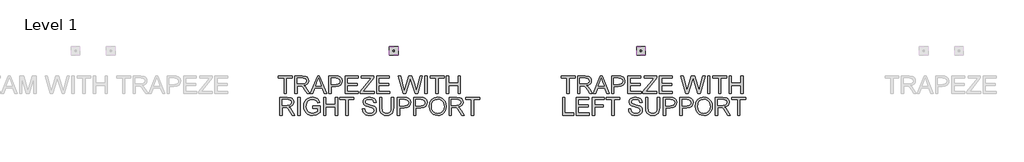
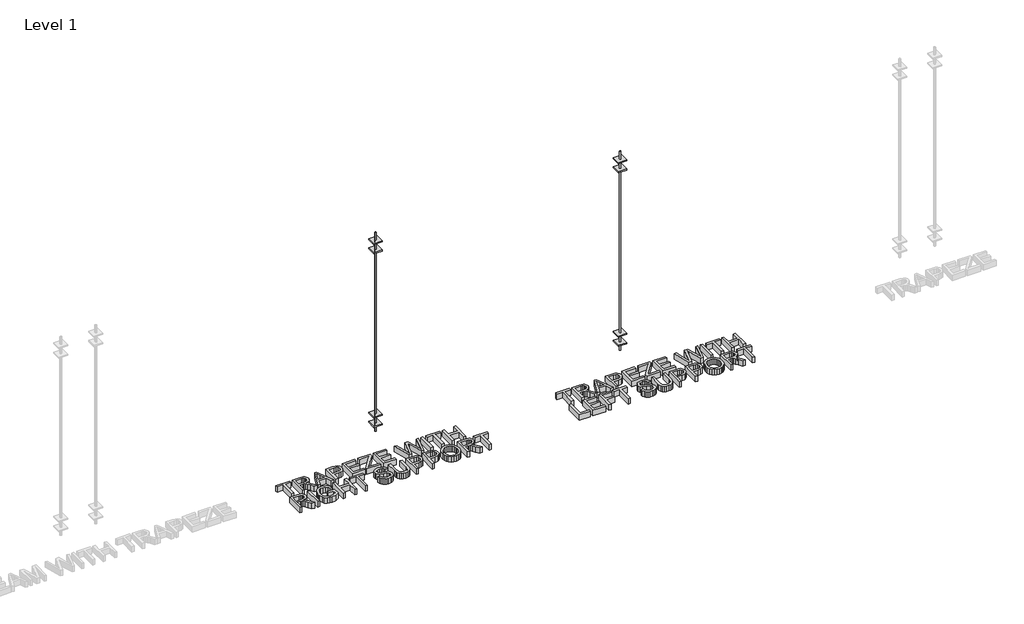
# One storey, part 2 of 3: 12 proxies.
"""IFC4 building model written with IfcOpenShell, lengths in millimetres."""

from ifc_helpers import new_model, si_unit, origin, origin_with_axes, place, context, project, spatial, polyline, outline, extrude, transform, mapped, element, save
from components import square_washer_square_washer_0353e511, threaded_rod_threaded_rod_3e89cda6

model = new_model("IFC4")

# Units and contexts
model_context = context("Model", 3, world=origin())
ifc_project = project(units=[si_unit("LENGTHUNIT", "METRE", prefix="MILLI")], contexts=[model_context])

# Site, building, storey
site = spatial("IfcSite", under=ifc_project)
building = spatial("IfcBuilding", under=site)
storey = spatial("IfcBuildingStorey", under=building, Name="Level 1", Elevation=0.0)

# Proxies
placement = place(None, origin())
element("IfcBuildingElementProxy", 1, Name="6\" Arial", ObjectType="6\" Arial", at=placement, inside=storey, context=model_context, shape_type="SweptSolid", body=[
    extrude(outline(polyline([(4086.2019632, -3418.4860814), (4086.2019632, -3284.5275918), (4035.9675297, -3284.5275918), (4035.9675297, -3265.3906647), (4155.5733239, -3265.3906647), (4155.5733239, -3284.5275918), (4105.3388903, -3284.5275918), (4105.3388903, -3418.4860814), (4086.2019632, -3418.4860814)])), origin_with_axes(), (0.0, 0.0, 1.0), 50.8),
    extrude(outline(polyline([(4177.1023669, -3418.4860814), (4177.1023669, -3265.3906647), (4243.0724378, -3265.3906647), (4273.7027342, -3269.5208023), (4283.1310347, -3275.2394543), (4290.4475454, -3284.1351353), (4295.1430072, -3295.1659665), (4296.7081612, -3307.2900695), (4294.1151449, -3322.3716126), (4286.3360962, -3334.8741558), (4273.1374099, -3344.0408186), (4254.285481, -3349.1147207), (4265.1621329, -3357.3002422), (4280.6735094, -3376.9978215), (4306.2018711, -3418.4860814), (4283.9626687, -3418.4860814), (4264.0408286, -3386.7531691), (4249.6507565, -3365.7474015), (4239.5403292, -3355.8238582), (4230.4390758, -3352.1796192), (4219.338163, -3351.5068366), (4196.239294, -3351.5068366), (4196.239294, -3418.4860814), (4177.1023669, -3418.4860814)]), holes=[polyline([(4196.239294, -3332.3699095), (4239.0731191, -3332.3699095), (4260.9198649, -3329.6600907), (4273.3289661, -3320.9886706), (4277.5712341, -3308.0002289), (4275.5482142, -3298.6653704), (4269.4791546, -3291.1432873), (4259.0370081, -3286.1815157), (4243.8947276, -3284.5275918), (4196.239294, -3284.5275918), (4196.239294, -3332.3699095)])]), origin_with_axes(), (0.0, 0.0, 1.0), 50.8),
    extrude(outline(polyline([(4312.3690449, -3418.4860814), (4373.4801304, -3265.3906647), (4389.7764198, -3265.3906647), (4450.8875053, -3418.4860814), (4430.6666508, -3418.4860814), (4413.1369265, -3370.6437637), (4350.0822469, -3370.6437637), (4332.5898994, -3418.4860814), (4312.3690449, -3418.4860814)]), holes=[polyline([(4357.1090873, -3351.5068366), (4406.1474629, -3351.5068366), (4392.3554198, -3313.8683882), (4381.6282751, -3284.5275918), (4372.0971884, -3310.5792289), (4357.1090873, -3351.5068366)])]), origin_with_axes(), (0.0, 0.0, 1.0), 50.8),
    extrude(outline(polyline([(4471.3326208, -3418.4860814), (4471.3326208, -3265.3906647), (4528.0706195, -3265.3906647), (4550.9452276, -3266.8483603), (4569.5401909, -3274.0060196), (4581.5942124, -3288.8072366), (4586.1541833, -3309.6821854), (4583.0752685, -3327.7258408), (4573.8385242, -3342.7606629), (4556.5657655, -3352.908467), (4529.3788078, -3356.2910684), (4490.4695479, -3356.2910684), (4490.4695479, -3418.4860814), (4471.3326208, -3418.4860814)]), holes=[polyline([(4490.4695479, -3337.1541413), (4530.5001122, -3337.1541413), (4547.4691842, -3335.3974312), (4558.6822274, -3330.1273009), (4564.933499, -3321.6707974), (4567.0172562, -3310.354968), (4562.1022056, -3294.5072003), (4549.1885175, -3285.8357802), (4530.0515904, -3284.5275918), (4490.4695479, -3284.5275918), (4490.4695479, -3337.1541413)])]), origin_with_axes(), (0.0, 0.0, 1.0), 50.8),
    extrude(outline(polyline([(4612.467458, -3418.4860814), (4612.467458, -3265.3906647), (4722.5047888, -3265.3906647), (4722.5047888, -3284.5275918), (4631.6043851, -3284.5275918), (4631.6043851, -3329.9777936), (4717.720557, -3329.9777936), (4717.720557, -3349.1147207), (4631.6043851, -3349.1147207), (4631.6043851, -3399.3491543), (4724.8969047, -3399.3491543), (4724.8969047, -3418.4860814), (4612.467458, -3418.4860814)])), origin_with_axes(), (0.0, 0.0, 1.0), 50.8),
    extrude(outline(polyline([(4741.6417159, -3418.4860814), (4741.6417159, -3398.6389949), (4819.9461343, -3302.7674754), (4834.822105, -3284.5275918), (4751.2101794, -3284.5275918), (4751.2101794, -3265.3906647), (4858.8553942, -3265.3906647), (4858.8553942, -3284.5275918), (4773.1503673, -3389.4442995), (4765.0769762, -3399.3491543), (4861.2475101, -3399.3491543), (4861.2475101, -3418.4860814), (4741.6417159, -3418.4860814)])), origin_with_axes(), (0.0, 0.0, 1.0), 50.8),
    extrude(outline(polyline([(4882.7765531, -3418.4860814), (4882.7765531, -3265.3906647), (4992.8138838, -3265.3906647), (4992.8138838, -3284.5275918), (4901.9134802, -3284.5275918), (4901.9134802, -3329.9777936), (4988.0296521, -3329.9777936), (4988.0296521, -3349.1147207), (4901.9134802, -3349.1147207), (4901.9134802, -3399.3491543), (4995.2059997, -3399.3491543), (4995.2059997, -3418.4860814), (4882.7765531, -3418.4860814)])), origin_with_axes(), (0.0, 0.0, 1.0), 50.8),
    extrude(outline(polyline([(5111.1114897, -3418.4860814), (5069.3615922, -3265.3906647), (5089.0965482, -3265.3906647), (5113.3167216, -3366.0090391), (5120.7920837, -3397.0691688), (5128.7907212, -3369.597213), (5159.1406915, -3265.3906647), (5187.5844444, -3265.3906647), (5209.6367628, -3340.9291992), (5226.0451827, -3397.0691688), (5233.2962839, -3366.9060826), (5257.7407181, -3265.3906647), (5277.4756742, -3265.3906647), (5235.6883998, -3418.4860814), (5215.2432844, -3418.4860814), (5178.5392562, -3300.3753595), (5173.4186332, -3283.892186), (5167.6626043, -3303.7392725), (5134.2103587, -3418.4860814), (5111.1114897, -3418.4860814)])), origin_with_axes(), (0.0, 0.0, 1.0), 50.8),
    extrude(outline(polyline([(5299.0047172, -3418.4860814), (5299.0047172, -3265.3906647), (5318.1416443, -3265.3906647), (5318.1416443, -3418.4860814), (5299.0047172, -3418.4860814)])), origin_with_axes(), (0.0, 0.0, 1.0), 50.8),
    extrude(outline(polyline([(5394.6893526, -3418.4860814), (5394.6893526, -3284.5275918), (5344.454919, -3284.5275918), (5344.454919, -3265.3906647), (5464.0607133, -3265.3906647), (5464.0607133, -3284.5275918), (5413.8262797, -3284.5275918), (5413.8262797, -3418.4860814), (5394.6893526, -3418.4860814)])), origin_with_axes(), (0.0, 0.0, 1.0), 50.8),
    extrude(outline(polyline([(5485.5897562, -3418.4860814), (5485.5897562, -3265.3906647), (5504.7266833, -3265.3906647), (5504.7266833, -3327.5856777), (5586.0586234, -3327.5856777), (5586.0586234, -3265.3906647), (5605.1955505, -3265.3906647), (5605.1955505, -3418.4860814), (5586.0586234, -3418.4860814), (5586.0586234, -3346.7226048), (5504.7266833, -3346.7226048), (5504.7266833, -3418.4860814), (5485.5897562, -3418.4860814)])), origin_with_axes(), (0.0, 0.0, 1.0), 50.8),
    extrude(outline(polyline([(4047.9281091, -3604.3757038), (4047.9281091, -3451.2802871), (4113.89818, -3451.2802871), (4144.5284764, -3455.4104247), (4153.9567769, -3461.1290767), (4161.2732876, -3470.0247577), (4165.9687494, -3481.0555889), (4167.5339034, -3493.1796919), (4164.9408871, -3508.261235), (4157.1618384, -3520.7637782), (4143.9631521, -3529.930441), (4125.1112232, -3535.0043431), (4135.9878751, -3543.1898646), (4151.4992516, -3562.8874439), (4177.0276133, -3604.3757038), (4154.7884109, -3604.3757038), (4134.8665708, -3572.6427915), (4120.4764987, -3551.6370239), (4110.3660714, -3541.7134806), (4101.264818, -3538.0692416), (4090.1639052, -3537.396459), (4067.0650362, -3537.396459), (4067.0650362, -3604.3757038), (4047.9281091, -3604.3757038)]), holes=[polyline([(4067.0650362, -3518.2595319), (4109.8988612, -3518.2595319), (4131.7456071, -3515.5497131), (4144.1547083, -3506.878293), (4148.3969763, -3493.8898513), (4146.3739564, -3484.5549928), (4140.3048968, -3477.0329097), (4129.8627503, -3472.0711381), (4114.7204698, -3470.4172142), (4067.0650362, -3470.4172142), (4067.0650362, -3518.2595319)])]), origin_with_axes(), (0.0, 0.0, 1.0), 50.8),
    extrude(outline(polyline([(4203.4156416, -3604.3757038), (4203.4156416, -3451.2802871), (4222.5525687, -3451.2802871), (4222.5525687, -3604.3757038), (4203.4156416, -3604.3757038)])), origin_with_axes(), (0.0, 0.0, 1.0), 50.8),
    extrude(outline(polyline([(4332.5898994, -3544.5728066), (4332.5898994, -3525.4358796), (4394.7849125, -3525.4358796), (4394.7849125, -3582.6597768), (4364.0798625, -3600.7127763), (4331.6181024, -3606.7678197), (4310.1497967, -3604.3616875), (4290.7465599, -3597.1432909), (4274.6278102, -3585.3649234), (4263.0129663, -3569.2788785), (4255.990798, -3549.9831), (4253.6500752, -3528.5755317), (4255.9814538, -3507.013784), (4262.9755895, -3486.9564529), (4274.3428121, -3470.132216), (4289.7934512, -3458.2697507), (4308.6126754, -3451.2335661), (4330.0856531, -3448.8881712), (4360.0244785, -3454.3264972), (4371.9616974, -3460.8300622), (4381.0115577, -3469.4641055), (4392.5796806, -3494.7868948), (4374.937826, -3499.7580106), (4366.2103407, -3482.0600907), (4351.2969932, -3471.8562214), (4329.7866386, -3468.0250983), (4305.2861392, -3472.1552359), (4288.6160816, -3482.994511), (4278.767292, -3497.7396628), (4272.7870023, -3527.7906186), (4274.5857613, -3546.0912396), (4279.9820384, -3561.1494222), (4288.8123099, -3572.8577081), (4300.9130524, -3581.1086391), (4315.0741915, -3586.0003292), (4330.0856531, -3587.6308926), (4356.268109, -3582.715842), (4375.6479854, -3572.2316466), (4375.6479854, -3544.5728066), (4332.5898994, -3544.5728066)])), origin_with_axes(), (0.0, 0.0, 1.0), 50.8),
    extrude(outline(polyline([(4425.882419, -3604.3757038), (4425.882419, -3451.2802871), (4445.0193461, -3451.2802871), (4445.0193461, -3513.4753001), (4526.3512862, -3513.4753001), (4526.3512862, -3451.2802871), (4545.4882133, -3451.2802871), (4545.4882133, -3604.3757038), (4526.3512862, -3604.3757038), (4526.3512862, -3532.6122272), (4445.0193461, -3532.6122272), (4445.0193461, -3604.3757038), (4425.882419, -3604.3757038)])), origin_with_axes(), (0.0, 0.0, 1.0), 50.8),
    extrude(outline(polyline([(4617.2516898, -3604.3757038), (4617.2516898, -3470.4172142), (4567.0172562, -3470.4172142), (4567.0172562, -3451.2802871), (4686.6230505, -3451.2802871), (4686.6230505, -3470.4172142), (4636.3886169, -3470.4172142), (4636.3886169, -3604.3757038), (4617.2516898, -3604.3757038)])), origin_with_axes(), (0.0, 0.0, 1.0), 50.8),
    extrude(outline(polyline([(4760.7786429, -3551.7491543), (4779.91557, -3551.7491543), (4786.0827438, -3570.9047698), (4801.1455985, -3583.0148565), (4824.0949603, -3587.6308926), (4844.091554, -3584.1361608), (4857.0052421, -3574.5303204), (4861.2475101, -3561.6913859), (4858.0704812, -3549.7494949), (4845.0633511, -3541.0593864), (4817.1989387, -3533.7522199), (4787.2040481, -3524.3145752), (4770.9264471, -3510.0740104), (4765.5628747, -3491.0492137), (4767.2214707, -3479.8408426), (4772.1972586, -3469.3893519), (4780.3594197, -3460.5310478), (4791.577135, -3454.1022363), (4819.9461343, -3448.8881712), (4850.221351, -3454.3451856), (4861.8268507, -3461.0823557), (4870.4048288, -3470.3798374), (4875.8338105, -3481.65829), (4877.9923213, -3494.338373), (4858.8553942, -3494.338373), (4855.341974, -3482.9197574), (4848.0161191, -3474.6781706), (4836.5694709, -3469.6883664), (4820.6936705, -3468.0250983), (4804.4441021, -3469.669678), (4793.2964683, -3474.603417), (4786.8489684, -3481.8638625), (4784.6998018, -3490.4885615), (4786.2229068, -3497.842449), (4790.7922219, -3503.7573293), (4822.0392357, -3514.4470972), (4855.9026262, -3524.0529376), (4866.8119828, -3530.9956801), (4874.4228359, -3539.564314), (4878.8940369, -3549.6653971), (4880.3844372, -3561.2054874), (4878.669776, -3573.0025433), (4873.5257924, -3584.098784), (4865.1627311, -3593.6485591), (4853.7908364, -3600.8062183), (4840.1155958, -3605.2774193), (4824.8424965, -3606.7678197), (4806.0933538, -3605.1606168), (4790.6614031, -3600.3390082), (4778.3691045, -3592.2843055), (4769.0389181, -3580.9778203), (4763.0492842, -3567.2044655), (4760.7786429, -3551.7491543)])), origin_with_axes(), (0.0, 0.0, 1.0), 50.8),
    extrude(outline(polyline([(5009.558695, -3451.2802871), (5028.6956221, -3451.2802871), (5028.6956221, -3539.6016908), (5027.3967779, -3560.2850834), (5023.5002454, -3576.2122769), (5016.2211115, -3588.4999034), (5004.7744633, -3598.2645952), (4989.132268, -3604.6420135), (4969.2664931, -3606.7678197), (4949.8352236, -3604.9176675), (4934.3004867, -3599.3672111), (4922.6576101, -3590.3080066), (4914.9019219, -3577.9316102), (4910.5428514, -3561.3316341), (4909.0898278, -3539.6016908), (4909.0898278, -3451.2802871), (4928.2267549, -3451.2802871), (4928.2267549, -3538.9289082), (4932.0018128, -3568.101509), (4937.1317801, -3576.3944889), (4944.9715661, -3582.5476463), (4967.4724062, -3587.6308926), (4986.9363803, -3585.1173021), (4999.8781011, -3577.5765305), (5007.1385465, -3562.8874439), (5009.558695, -3538.9289082), (5009.558695, -3451.2802871)])), origin_with_axes(), (0.0, 0.0, 1.0), 50.8),
    extrude(outline(polyline([(5062.1852445, -3604.3757038), (5062.1852445, -3451.2802871), (5118.9232432, -3451.2802871), (5141.7978513, -3452.7379827), (5160.3928146, -3459.895642), (5172.4468361, -3474.696859), (5177.006807, -3495.5718078), (5173.9278922, -3513.6154632), (5164.6911479, -3528.6502853), (5147.4183892, -3538.7980894), (5120.2314315, -3542.1806908), (5081.3221716, -3542.1806908), (5081.3221716, -3604.3757038), (5062.1852445, -3604.3757038)]), holes=[polyline([(5081.3221716, -3523.0437637), (5121.3527359, -3523.0437637), (5138.3218079, -3521.2870536), (5149.5348511, -3516.0169233), (5155.7861227, -3507.5604198), (5157.8698799, -3496.2445904), (5152.9548293, -3480.3968226), (5140.0411412, -3471.7254026), (5120.9042141, -3470.4172142), (5081.3221716, -3470.4172142), (5081.3221716, -3523.0437637)])]), origin_with_axes(), (0.0, 0.0, 1.0), 50.8),
    extrude(outline(polyline([(5203.3200817, -3604.3757038), (5203.3200817, -3451.2802871), (5260.0580804, -3451.2802871), (5282.9326886, -3452.7379827), (5301.5276519, -3459.895642), (5313.5816733, -3474.696859), (5318.1416443, -3495.5718078), (5315.0627295, -3513.6154632), (5305.8259851, -3528.6502853), (5288.5532265, -3538.7980894), (5261.3662688, -3542.1806908), (5222.4570088, -3542.1806908), (5222.4570088, -3604.3757038), (5203.3200817, -3604.3757038)]), holes=[polyline([(5222.4570088, -3523.0437637), (5262.4875731, -3523.0437637), (5279.4566452, -3521.2870536), (5290.6696884, -3516.0169233), (5296.92096, -3507.5604198), (5299.0047172, -3496.2445904), (5294.0896666, -3480.3968226), (5281.1759785, -3471.7254026), (5262.0390514, -3470.4172142), (5222.4570088, -3470.4172142), (5222.4570088, -3523.0437637)])]), origin_with_axes(), (0.0, 0.0, 1.0), 50.8),
    extrude(outline(polyline([(5337.2785713, -3529.8463432), (5342.380506, -3495.9922969), (5348.7579243, -3482.1558688), (5357.68631, -3470.3798374), (5381.0561609, -3454.2610878), (5410.3502363, -3448.8881712), (5430.4309278, -3451.4111059), (5448.4372064, -3458.9799101), (5463.3879307, -3471.0619642), (5474.3019594, -3487.1246486), (5480.9737201, -3506.3923945), (5483.1976403, -3528.0896331), (5480.8569176, -3550.076542), (5473.8347493, -3569.6152698), (5462.5189198, -3585.7059868), (5447.2972137, -3597.3488634), (5429.4451144, -3604.4130806), (5410.2381058, -3606.7678197), (5389.8490556, -3604.1654592), (5371.7399908, -3596.3583779), (5356.8266433, -3584.0520629), (5346.024745, -3567.9520017), (5339.4651148, -3549.4271199), (5337.2785713, -3529.8463432)]), holes=[polyline([(5356.4154984, -3530.0332273), (5360.2419494, -3553.9824187), (5371.7213024, -3572.2316466), (5388.9753726, -3583.7810811), (5410.1259754, -3587.6308926), (5431.5849369, -3583.7437043), (5448.8670397, -3572.0821393), (5460.2622949, -3553.2722593), (5464.0607133, -3527.9401259), (5462.434822, -3510.9990864), (5457.5571482, -3496.3567208), (5449.5538386, -3484.3821251), (5438.55104, -3475.4443952), (5425.2776, -3469.8799225), (5410.4623667, -3468.0250983), (5389.8770882, -3471.5992558), (5372.3753966, -3482.3217284), (5360.405473, -3501.3979182), (5356.4154984, -3530.0332273)])]), origin_with_axes(), (0.0, 0.0, 1.0), 50.8),
    extrude(outline(polyline([(5509.5109151, -3604.3757038), (5509.5109151, -3451.2802871), (5575.480986, -3451.2802871), (5606.1112824, -3455.4104247), (5615.5395829, -3461.1290767), (5622.8560936, -3470.0247577), (5627.5515554, -3481.0555889), (5629.1167094, -3493.1796919), (5626.5236931, -3508.261235), (5618.7446444, -3520.7637782), (5605.5459581, -3529.930441), (5586.6940292, -3535.0043431), (5597.5706811, -3543.1898646), (5613.0820576, -3562.8874439), (5638.6104193, -3604.3757038), (5616.3712169, -3604.3757038), (5596.4493768, -3572.6427915), (5582.0593047, -3551.6370239), (5571.9488774, -3541.7134806), (5562.847624, -3538.0692416), (5551.7467112, -3537.396459), (5528.6478422, -3537.396459), (5528.6478422, -3604.3757038), (5509.5109151, -3604.3757038)]), holes=[polyline([(5528.6478422, -3518.2595319), (5571.4816672, -3518.2595319), (5593.3284131, -3515.5497131), (5605.7375143, -3506.878293), (5609.9797823, -3493.8898513), (5607.9567624, -3484.5549928), (5601.8877028, -3477.0329097), (5591.4455563, -3472.0711381), (5576.3032758, -3470.4172142), (5528.6478422, -3470.4172142), (5528.6478422, -3518.2595319)])]), origin_with_axes(), (0.0, 0.0, 1.0), 50.8),
    extrude(outline(polyline([(5700.8801859, -3604.3757038), (5700.8801859, -3470.4172142), (5650.6457523, -3470.4172142), (5650.6457523, -3451.2802871), (5770.2515466, -3451.2802871), (5770.2515466, -3470.4172142), (5720.017113, -3470.4172142), (5720.017113, -3604.3757038), (5700.8801859, -3604.3757038)])), origin_with_axes(), (0.0, 0.0, 1.0), 50.8),
])
element("IfcBuildingElementProxy", 2, Name="6\" Arial", ObjectType="6\" Arial", at=placement, inside=storey, context=model_context, shape_type="SweptSolid", body=[
    extrude(outline(polyline([(6524.6019632, -3418.4860814), (6524.6019632, -3284.5275918), (6474.3675297, -3284.5275918), (6474.3675297, -3265.3906647), (6593.9733239, -3265.3906647), (6593.9733239, -3284.5275918), (6543.7388903, -3284.5275918), (6543.7388903, -3418.4860814), (6524.6019632, -3418.4860814)])), origin_with_axes(), (0.0, 0.0, 1.0), 50.8),
    extrude(outline(polyline([(6615.5023669, -3418.4860814), (6615.5023669, -3265.3906647), (6681.4724378, -3265.3906647), (6712.1027342, -3269.5208023), (6721.5310347, -3275.2394543), (6728.8475454, -3284.1351353), (6733.5430072, -3295.1659665), (6735.1081612, -3307.2900695), (6732.5151449, -3322.3716126), (6724.7360962, -3334.8741558), (6711.5374099, -3344.0408186), (6692.685481, -3349.1147207), (6703.5621329, -3357.3002422), (6719.0735094, -3376.9978215), (6744.6018711, -3418.4860814), (6722.3626687, -3418.4860814), (6702.4408286, -3386.7531691), (6688.0507565, -3365.7474015), (6677.9403292, -3355.8238582), (6668.8390758, -3352.1796192), (6657.738163, -3351.5068366), (6634.639294, -3351.5068366), (6634.639294, -3418.4860814), (6615.5023669, -3418.4860814)]), holes=[polyline([(6634.639294, -3332.3699095), (6677.4731191, -3332.3699095), (6699.3198649, -3329.6600907), (6711.7289661, -3320.9886706), (6715.9712341, -3308.0002289), (6713.9482142, -3298.6653704), (6707.8791546, -3291.1432873), (6697.4370081, -3286.1815157), (6682.2947276, -3284.5275918), (6634.639294, -3284.5275918), (6634.639294, -3332.3699095)])]), origin_with_axes(), (0.0, 0.0, 1.0), 50.8),
    extrude(outline(polyline([(6750.7690449, -3418.4860814), (6811.8801304, -3265.3906647), (6828.1764198, -3265.3906647), (6889.2875053, -3418.4860814), (6869.0666508, -3418.4860814), (6851.5369265, -3370.6437637), (6788.4822469, -3370.6437637), (6770.9898994, -3418.4860814), (6750.7690449, -3418.4860814)]), holes=[polyline([(6795.5090873, -3351.5068366), (6844.5474629, -3351.5068366), (6830.7554198, -3313.8683882), (6820.0282751, -3284.5275918), (6810.4971884, -3310.5792289), (6795.5090873, -3351.5068366)])]), origin_with_axes(), (0.0, 0.0, 1.0), 50.8),
    extrude(outline(polyline([(6909.7326208, -3418.4860814), (6909.7326208, -3265.3906647), (6966.4706195, -3265.3906647), (6989.3452276, -3266.8483603), (7007.9401909, -3274.0060196), (7019.9942124, -3288.8072366), (7024.5541833, -3309.6821854), (7021.4752685, -3327.7258408), (7012.2385242, -3342.7606629), (6994.9657655, -3352.908467), (6967.7788078, -3356.2910684), (6928.8695479, -3356.2910684), (6928.8695479, -3418.4860814), (6909.7326208, -3418.4860814)]), holes=[polyline([(6928.8695479, -3337.1541413), (6968.9001122, -3337.1541413), (6985.8691842, -3335.3974312), (6997.0822274, -3330.1273009), (7003.333499, -3321.6707974), (7005.4172562, -3310.354968), (7000.5022056, -3294.5072003), (6987.5885175, -3285.8357802), (6968.4515904, -3284.5275918), (6928.8695479, -3284.5275918), (6928.8695479, -3337.1541413)])]), origin_with_axes(), (0.0, 0.0, 1.0), 50.8),
    extrude(outline(polyline([(7050.867458, -3418.4860814), (7050.867458, -3265.3906647), (7160.9047888, -3265.3906647), (7160.9047888, -3284.5275918), (7070.0043851, -3284.5275918), (7070.0043851, -3329.9777936), (7156.120557, -3329.9777936), (7156.120557, -3349.1147207), (7070.0043851, -3349.1147207), (7070.0043851, -3399.3491543), (7163.2969047, -3399.3491543), (7163.2969047, -3418.4860814), (7050.867458, -3418.4860814)])), origin_with_axes(), (0.0, 0.0, 1.0), 50.8),
    extrude(outline(polyline([(7180.0417159, -3418.4860814), (7180.0417159, -3398.6389949), (7258.3461343, -3302.7674754), (7273.222105, -3284.5275918), (7189.6101794, -3284.5275918), (7189.6101794, -3265.3906647), (7297.2553942, -3265.3906647), (7297.2553942, -3284.5275918), (7211.5503673, -3389.4442995), (7203.4769762, -3399.3491543), (7299.6475101, -3399.3491543), (7299.6475101, -3418.4860814), (7180.0417159, -3418.4860814)])), origin_with_axes(), (0.0, 0.0, 1.0), 50.8),
    extrude(outline(polyline([(7321.1765531, -3418.4860814), (7321.1765531, -3265.3906647), (7431.2138838, -3265.3906647), (7431.2138838, -3284.5275918), (7340.3134802, -3284.5275918), (7340.3134802, -3329.9777936), (7426.4296521, -3329.9777936), (7426.4296521, -3349.1147207), (7340.3134802, -3349.1147207), (7340.3134802, -3399.3491543), (7433.6059997, -3399.3491543), (7433.6059997, -3418.4860814), (7321.1765531, -3418.4860814)])), origin_with_axes(), (0.0, 0.0, 1.0), 50.8),
    extrude(outline(polyline([(7549.5114897, -3418.4860814), (7507.7615922, -3265.3906647), (7527.4965482, -3265.3906647), (7551.7167216, -3366.0090391), (7559.1920837, -3397.0691688), (7567.1907212, -3369.597213), (7597.5406915, -3265.3906647), (7625.9844444, -3265.3906647), (7648.0367628, -3340.9291992), (7664.4451827, -3397.0691688), (7671.6962839, -3366.9060826), (7696.1407181, -3265.3906647), (7715.8756742, -3265.3906647), (7674.0883998, -3418.4860814), (7653.6432844, -3418.4860814), (7616.9392562, -3300.3753595), (7611.8186332, -3283.892186), (7606.0626043, -3303.7392725), (7572.6103587, -3418.4860814), (7549.5114897, -3418.4860814)])), origin_with_axes(), (0.0, 0.0, 1.0), 50.8),
    extrude(outline(polyline([(7737.4047172, -3418.4860814), (7737.4047172, -3265.3906647), (7756.5416443, -3265.3906647), (7756.5416443, -3418.4860814), (7737.4047172, -3418.4860814)])), origin_with_axes(), (0.0, 0.0, 1.0), 50.8),
    extrude(outline(polyline([(7833.0893526, -3418.4860814), (7833.0893526, -3284.5275918), (7782.854919, -3284.5275918), (7782.854919, -3265.3906647), (7902.4607133, -3265.3906647), (7902.4607133, -3284.5275918), (7852.2262797, -3284.5275918), (7852.2262797, -3418.4860814), (7833.0893526, -3418.4860814)])), origin_with_axes(), (0.0, 0.0, 1.0), 50.8),
    extrude(outline(polyline([(7923.9897562, -3418.4860814), (7923.9897562, -3265.3906647), (7943.1266833, -3265.3906647), (7943.1266833, -3327.5856777), (8024.4586234, -3327.5856777), (8024.4586234, -3265.3906647), (8043.5955505, -3265.3906647), (8043.5955505, -3418.4860814), (8024.4586234, -3418.4860814), (8024.4586234, -3346.7226048), (7943.1266833, -3346.7226048), (7943.1266833, -3418.4860814), (7923.9897562, -3418.4860814)])), origin_with_axes(), (0.0, 0.0, 1.0), 50.8),
    extrude(outline(polyline([(6486.3281091, -3604.3757038), (6486.3281091, -3451.2802871), (6505.4650362, -3451.2802871), (6505.4650362, -3585.2387767), (6582.0127445, -3585.2387767), (6582.0127445, -3604.3757038), (6486.3281091, -3604.3757038)])), origin_with_axes(), (0.0, 0.0, 1.0), 50.8),
    extrude(outline(polyline([(6603.5417875, -3604.3757038), (6603.5417875, -3451.2802871), (6713.5791182, -3451.2802871), (6713.5791182, -3470.4172142), (6622.6787146, -3470.4172142), (6622.6787146, -3515.867416), (6708.7948864, -3515.867416), (6708.7948864, -3535.0043431), (6622.6787146, -3535.0043431), (6622.6787146, -3585.2387767), (6715.9712341, -3585.2387767), (6715.9712341, -3604.3757038), (6603.5417875, -3604.3757038)])), origin_with_axes(), (0.0, 0.0, 1.0), 50.8),
    extrude(outline(polyline([(6744.6766247, -3604.3757038), (6744.6766247, -3451.2802871), (6847.5376078, -3451.2802871), (6847.5376078, -3470.4172142), (6763.8135518, -3470.4172142), (6763.8135518, -3515.867416), (6835.5770284, -3515.867416), (6835.5770284, -3535.0043431), (6763.8135518, -3535.0043431), (6763.8135518, -3604.3757038), (6744.6766247, -3604.3757038)])), origin_with_axes(), (0.0, 0.0, 1.0), 50.8),
    extrude(outline(polyline([(6912.1247367, -3604.3757038), (6912.1247367, -3470.4172142), (6861.8903031, -3470.4172142), (6861.8903031, -3451.2802871), (6981.4960974, -3451.2802871), (6981.4960974, -3470.4172142), (6931.2616638, -3470.4172142), (6931.2616638, -3604.3757038), (6912.1247367, -3604.3757038)])), origin_with_axes(), (0.0, 0.0, 1.0), 50.8),
    extrude(outline(polyline([(7055.6516898, -3551.7491543), (7074.7886169, -3551.7491543), (7080.9557907, -3570.9047698), (7096.0186454, -3583.0148565), (7118.9680072, -3587.6308926), (7138.9646009, -3584.1361608), (7151.878289, -3574.5303204), (7156.120557, -3561.6913859), (7152.9435281, -3549.7494949), (7139.936398, -3541.0593864), (7112.0719856, -3533.7522199), (7082.077095, -3524.3145752), (7065.7994939, -3510.0740104), (7060.4359216, -3491.0492137), (7062.0945176, -3479.8408426), (7067.0703055, -3469.3893519), (7075.2324665, -3460.5310478), (7086.4501818, -3454.1022363), (7114.8191812, -3448.8881712), (7145.0943978, -3454.3451856), (7156.6998976, -3461.0823557), (7165.2778756, -3470.3798374), (7170.7068574, -3481.65829), (7172.8653682, -3494.338373), (7153.7284411, -3494.338373), (7150.2150209, -3482.9197574), (7142.889166, -3474.6781706), (7131.4425177, -3469.6883664), (7115.5667174, -3468.0250983), (7099.3171489, -3469.669678), (7088.1695151, -3474.603417), (7081.7220153, -3481.8638625), (7079.5728487, -3490.4885615), (7081.0959537, -3497.842449), (7085.6652688, -3503.7573293), (7116.9122826, -3514.4470972), (7150.7756731, -3524.0529376), (7161.6850297, -3530.9956801), (7169.2958828, -3539.564314), (7173.7670838, -3549.6653971), (7175.2574841, -3561.2054874), (7173.5428229, -3573.0025433), (7168.3988393, -3584.098784), (7160.0357779, -3593.6485591), (7148.6638833, -3600.8062183), (7134.9886427, -3605.2774193), (7119.7155434, -3606.7678197), (7100.9664007, -3605.1606168), (7085.53445, -3600.3390082), (7073.2421514, -3592.2843055), (7063.911965, -3580.9778203), (7057.9223311, -3567.2044655), (7055.6516898, -3551.7491543)])), origin_with_axes(), (0.0, 0.0, 1.0), 50.8),
    extrude(outline(polyline([(7304.4317419, -3451.2802871), (7323.568669, -3451.2802871), (7323.568669, -3539.6016908), (7322.2698248, -3560.2850834), (7318.3732923, -3576.2122769), (7311.0941584, -3588.4999034), (7299.6475101, -3598.2645952), (7284.0053148, -3604.6420135), (7264.13954, -3606.7678197), (7244.7082705, -3604.9176675), (7229.1735335, -3599.3672111), (7217.530657, -3590.3080066), (7209.7749688, -3577.9316102), (7205.4158982, -3561.3316341), (7203.9628747, -3539.6016908), (7203.9628747, -3451.2802871), (7223.0998018, -3451.2802871), (7223.0998018, -3538.9289082), (7226.8748597, -3568.101509), (7232.0048269, -3576.3944889), (7239.844613, -3582.5476463), (7262.345453, -3587.6308926), (7281.8094272, -3585.1173021), (7294.7511479, -3577.5765305), (7302.0115934, -3562.8874439), (7304.4317419, -3538.9289082), (7304.4317419, -3451.2802871)])), origin_with_axes(), (0.0, 0.0, 1.0), 50.8),
    extrude(outline(polyline([(7357.0582914, -3604.3757038), (7357.0582914, -3451.2802871), (7413.79629, -3451.2802871), (7436.6708982, -3452.7379827), (7455.2658615, -3459.895642), (7467.319883, -3474.696859), (7471.8798539, -3495.5718078), (7468.8009391, -3513.6154632), (7459.5641948, -3528.6502853), (7442.2914361, -3538.7980894), (7415.1044784, -3542.1806908), (7376.1952185, -3542.1806908), (7376.1952185, -3604.3757038), (7357.0582914, -3604.3757038)]), holes=[polyline([(7376.1952185, -3523.0437637), (7416.2257827, -3523.0437637), (7433.1948548, -3521.2870536), (7444.407898, -3516.0169233), (7450.6591696, -3507.5604198), (7452.7429268, -3496.2445904), (7447.8278762, -3480.3968226), (7434.9141881, -3471.7254026), (7415.777261, -3470.4172142), (7376.1952185, -3470.4172142), (7376.1952185, -3523.0437637)])]), origin_with_axes(), (0.0, 0.0, 1.0), 50.8),
    extrude(outline(polyline([(7498.1931286, -3604.3757038), (7498.1931286, -3451.2802871), (7554.9311273, -3451.2802871), (7577.8057354, -3452.7379827), (7596.4006988, -3459.895642), (7608.4547202, -3474.696859), (7613.0146911, -3495.5718078), (7609.9357763, -3513.6154632), (7600.699032, -3528.6502853), (7583.4262733, -3538.7980894), (7556.2393157, -3542.1806908), (7517.3300557, -3542.1806908), (7517.3300557, -3604.3757038), (7498.1931286, -3604.3757038)]), holes=[polyline([(7517.3300557, -3523.0437637), (7557.36062, -3523.0437637), (7574.329692, -3521.2870536), (7585.5427353, -3516.0169233), (7591.7940068, -3507.5604198), (7593.877764, -3496.2445904), (7588.9627134, -3480.3968226), (7576.0490253, -3471.7254026), (7556.9120982, -3470.4172142), (7517.3300557, -3470.4172142), (7517.3300557, -3523.0437637)])]), origin_with_axes(), (0.0, 0.0, 1.0), 50.8),
    extrude(outline(polyline([(7632.1516182, -3529.8463432), (7637.2535529, -3495.9922969), (7643.6309712, -3482.1558688), (7652.5593569, -3470.3798374), (7675.9292078, -3454.2610878), (7705.2232831, -3448.8881712), (7725.3039747, -3451.4111059), (7743.3102533, -3458.9799101), (7758.2609775, -3471.0619642), (7769.1750063, -3487.1246486), (7775.846767, -3506.3923945), (7778.0706872, -3528.0896331), (7775.7299644, -3550.076542), (7768.7077961, -3569.6152698), (7757.3919667, -3585.7059868), (7742.1702605, -3597.3488634), (7724.3181613, -3604.4130806), (7705.1111527, -3606.7678197), (7684.7221025, -3604.1654592), (7666.6130377, -3596.3583779), (7651.6996902, -3584.0520629), (7640.8977919, -3567.9520017), (7634.3381616, -3549.4271199), (7632.1516182, -3529.8463432)]), holes=[polyline([(7651.2885453, -3530.0332273), (7655.1149963, -3553.9824187), (7666.5943493, -3572.2316466), (7683.8484195, -3583.7810811), (7704.9990223, -3587.6308926), (7726.4579837, -3583.7437043), (7743.7400866, -3572.0821393), (7755.1353417, -3553.2722593), (7758.9337601, -3527.9401259), (7757.3078689, -3510.9990864), (7752.4301951, -3496.3567208), (7744.4268855, -3484.3821251), (7733.4240868, -3475.4443952), (7720.1506469, -3469.8799225), (7705.3354136, -3468.0250983), (7684.7501351, -3471.5992558), (7667.2484435, -3482.3217284), (7655.2785198, -3501.3979182), (7651.2885453, -3530.0332273)])]), origin_with_axes(), (0.0, 0.0, 1.0), 50.8),
    extrude(outline(polyline([(7804.383962, -3604.3757038), (7804.383962, -3451.2802871), (7870.3540329, -3451.2802871), (7900.9843292, -3455.4104247), (7910.4126297, -3461.1290767), (7917.7291404, -3470.0247577), (7922.4246023, -3481.0555889), (7923.9897562, -3493.1796919), (7921.39674, -3508.261235), (7913.6176913, -3520.7637782), (7900.419005, -3529.930441), (7881.5670761, -3535.0043431), (7892.443728, -3543.1898646), (7907.9551044, -3562.8874439), (7933.4834662, -3604.3757038), (7911.2442638, -3604.3757038), (7891.3224237, -3572.6427915), (7876.9323515, -3551.6370239), (7866.8219242, -3541.7134806), (7857.7206708, -3538.0692416), (7846.6197581, -3537.396459), (7823.520889, -3537.396459), (7823.520889, -3604.3757038), (7804.383962, -3604.3757038)]), holes=[polyline([(7823.520889, -3518.2595319), (7866.3547141, -3518.2595319), (7888.20146, -3515.5497131), (7900.6105611, -3506.878293), (7904.8528291, -3493.8898513), (7902.8298093, -3484.5549928), (7896.7607496, -3477.0329097), (7886.3186031, -3472.0711381), (7871.1763227, -3470.4172142), (7823.520889, -3470.4172142), (7823.520889, -3518.2595319)])]), origin_with_axes(), (0.0, 0.0, 1.0), 50.8),
    extrude(outline(polyline([(7995.7532328, -3604.3757038), (7995.7532328, -3470.4172142), (7945.5187992, -3470.4172142), (7945.5187992, -3451.2802871), (8065.1245935, -3451.2802871), (8065.1245935, -3470.4172142), (8014.8901599, -3470.4172142), (8014.8901599, -3604.3757038), (7995.7532328, -3604.3757038)])), origin_with_axes(), (0.0, 0.0, 1.0), 50.8),
])
square_washer_square_washer_shape = square_washer_square_washer_0353e511(model_context)
element("IfcBuildingElementProxy", 3, Name="SQUARE WASHER : SQUARE WASHER", ObjectType="SQUARE WASHER : SQUARE WASHER", at=placement, inside=storey, context=model_context, shape_type="MappedRepresentation", body=[
    mapped(square_washer_square_washer_shape, transform((5029.2, -3048.0, 1743.075), x_axis=(1.0, 0.0, 0.0), y_axis=(0.0, 1.0, 0.0), z_axis=(0.0, 0.0, 1.0))),
])
element("IfcBuildingElementProxy", 4, Name="SQUARE WASHER : SQUARE WASHER", ObjectType="SQUARE WASHER : SQUARE WASHER", at=placement, inside=storey, context=model_context, shape_type="MappedRepresentation", body=[
    mapped(square_washer_square_washer_shape, transform((5029.2, -3048.0, 1828.8), x_axis=(1.0, 0.0, 0.0), y_axis=(0.0, 1.0, 0.0), z_axis=(0.0, 0.0, 1.0))),
])
element("IfcBuildingElementProxy", 5, Name="SQUARE WASHER : SQUARE WASHER", ObjectType="SQUARE WASHER : SQUARE WASHER", at=placement, inside=storey, context=model_context, shape_type="MappedRepresentation", body=[
    mapped(square_washer_square_washer_shape, transform((5029.2, -3048.0, 228.6), x_axis=(1.0, 0.0, 0.0), y_axis=(0.0, 1.0, 0.0), z_axis=(0.0, 0.0, 1.0))),
])
element("IfcBuildingElementProxy", 6, Name="SQUARE WASHER : SQUARE WASHER", ObjectType="SQUARE WASHER : SQUARE WASHER", at=placement, inside=storey, context=model_context, shape_type="MappedRepresentation", body=[
    mapped(square_washer_square_washer_shape, transform((5029.2, -3048.0, 142.875), x_axis=(1.0, 0.0, 0.0), y_axis=(0.0, 1.0, 0.0), z_axis=(0.0, 0.0, 1.0))),
])
element("IfcBuildingElementProxy", 7, Name="SQUARE WASHER : SQUARE WASHER", ObjectType="SQUARE WASHER : SQUARE WASHER", at=placement, inside=storey, context=model_context, shape_type="MappedRepresentation", body=[
    mapped(square_washer_square_washer_shape, transform((7162.8, -3048.0, 1743.075), x_axis=(1.0, 0.0, 0.0), y_axis=(0.0, 1.0, 0.0), z_axis=(0.0, 0.0, 1.0))),
])
element("IfcBuildingElementProxy", 8, Name="SQUARE WASHER : SQUARE WASHER", ObjectType="SQUARE WASHER : SQUARE WASHER", at=placement, inside=storey, context=model_context, shape_type="MappedRepresentation", body=[
    mapped(square_washer_square_washer_shape, transform((7162.8, -3048.0, 1828.8), x_axis=(1.0, 0.0, 0.0), y_axis=(0.0, 1.0, 0.0), z_axis=(0.0, 0.0, 1.0))),
])
element("IfcBuildingElementProxy", 9, Name="SQUARE WASHER : SQUARE WASHER", ObjectType="SQUARE WASHER : SQUARE WASHER", at=placement, inside=storey, context=model_context, shape_type="MappedRepresentation", body=[
    mapped(square_washer_square_washer_shape, transform((7162.8, -3048.0, 228.6), x_axis=(1.0, 0.0, 0.0), y_axis=(0.0, 1.0, 0.0), z_axis=(0.0, 0.0, 1.0))),
])
element("IfcBuildingElementProxy", 10, Name="SQUARE WASHER : SQUARE WASHER", ObjectType="SQUARE WASHER : SQUARE WASHER", at=placement, inside=storey, context=model_context, shape_type="MappedRepresentation", body=[
    mapped(square_washer_square_washer_shape, transform((7162.8, -3048.0, 142.875), x_axis=(1.0, 0.0, 0.0), y_axis=(0.0, 1.0, 0.0), z_axis=(0.0, 0.0, 1.0))),
])
threaded_rod_threaded_rod_shape = threaded_rod_threaded_rod_3e89cda6(model_context)
element("IfcBuildingElementProxy", 11, Name="THREADED ROD : THREADED ROD", ObjectType="THREADED ROD : THREADED ROD", at=placement, inside=storey, context=model_context, shape_type="MappedRepresentation", body=[
    mapped(threaded_rod_threaded_rod_shape, transform((5029.2, -3048.0, 76.2), x_axis=(1.0, 0.0, 0.0), y_axis=(0.0, 1.0, 0.0), z_axis=(0.0, 0.0, 1.0))),
])
element("IfcBuildingElementProxy", 12, Name="THREADED ROD : THREADED ROD", ObjectType="THREADED ROD : THREADED ROD", at=placement, inside=storey, context=model_context, shape_type="MappedRepresentation", body=[
    mapped(threaded_rod_threaded_rod_shape, transform((7162.8, -3048.0, 76.2), x_axis=(1.0, 0.0, 0.0), y_axis=(0.0, 1.0, 0.0), z_axis=(0.0, 0.0, 1.0))),
])

save(model, "model.ifc")
